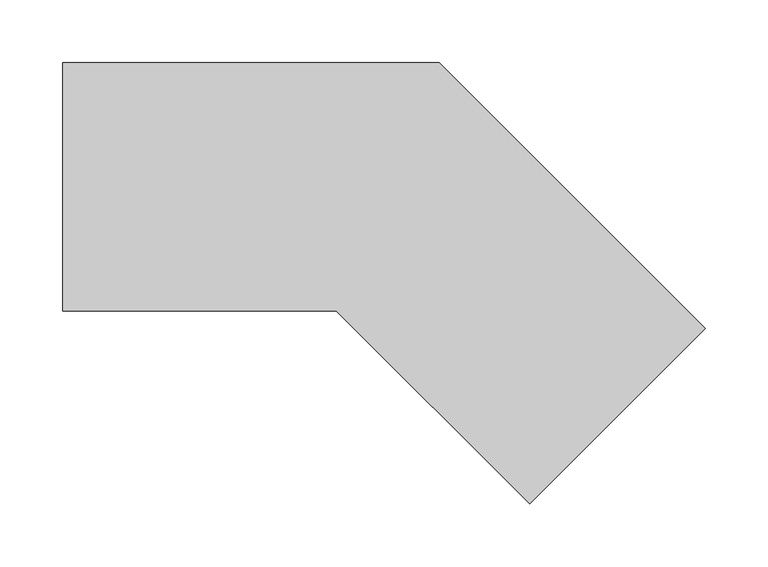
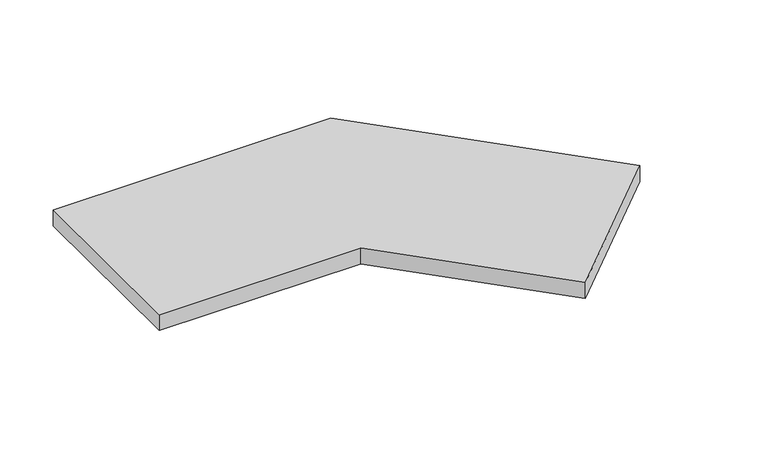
"""IFC4 building model written with IfcOpenShell, lengths in millimetres: proxy geometry, TECHNO_Решетка_KVU : Решетка рулонная алюминиевая/ Белый RAL 9016."""

from ifc_helpers import new_model, si_unit, frame, origin, place, context, project, spatial, polyline, outline, extrude, source, transform, mapped, element, save


def mechanical_equipment_324d8ace(model_context):
    return source(origin(), model_context, "Body", "SweptSolid", [
        extrude(outline(polyline([(252.7048625, -112.9805625), (112.9805625, -252.7048625), (-40.9243, -98.8), (-258.5786438, -98.8), (-258.5786438, 98.8), (40.9243, 98.8), (252.7048625, -112.9805625)])), frame((0.0, 0.0, -18.1), z_axis=(0.0, 0.0, 1.0), x_axis=(1.0, 0.0, 0.0)), (0.0, 0.0, 1.0), 18.1),
    ])


if __name__ == "__main__":
    model = new_model("IFC4")
    model_context = context("Model", 3, world=origin())
    ifc_project = project(units=[si_unit("LENGTHUNIT", "METRE", prefix="MILLI")], contexts=[model_context])
    site = spatial("IfcSite", under=ifc_project)
    building = spatial("IfcBuilding", under=site)
    placement = place(None, origin())
    mechanical_equipment_shape = mechanical_equipment_324d8ace(model_context)
    element("IfcBuildingElementProxy", 1, Name="TECHNO_Решетка_KVU : Решетка рулонная алюминиевая/ Белый RAL 9016", ObjectType="TECHNO_Решетка_KVU : Решетка рулонная алюминиевая/ Белый RAL 9016", at=placement, inside=building, context=model_context, shape_type="MappedRepresentation", body=[
        mapped(mechanical_equipment_shape, transform((0.0, 0.0, 0.0), x_axis=(1.0, 0.0, 0.0), y_axis=(0.0, 1.0, 0.0), z_axis=(0.0, 0.0, 1.0))),
    ])
    save(model, "model.ifc")
